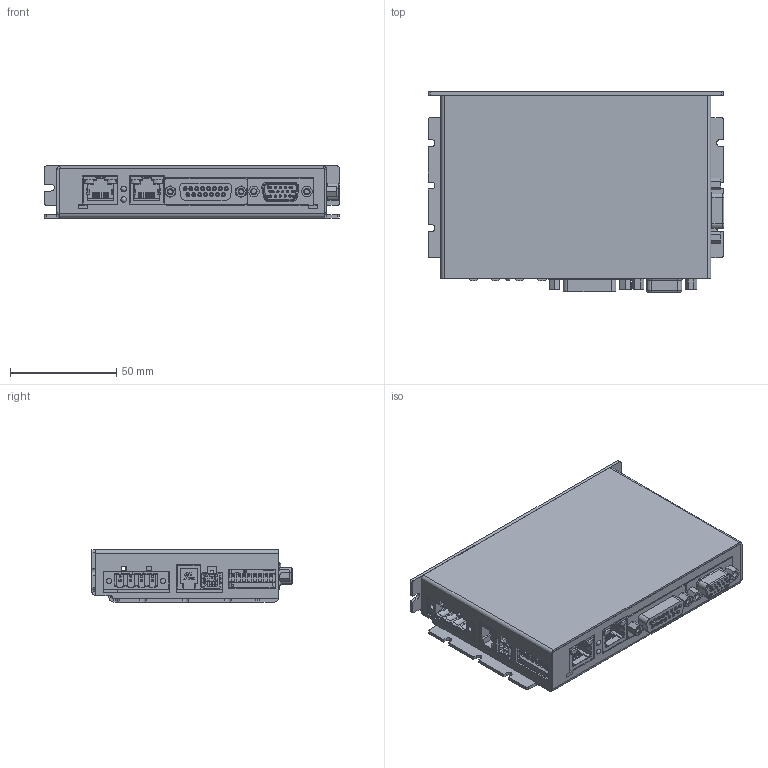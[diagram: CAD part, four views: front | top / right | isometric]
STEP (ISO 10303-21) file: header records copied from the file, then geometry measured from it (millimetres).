
FILE_DESCRIPTION (( 'STEP AP214' ), '1' );
FILE_NAME ('P029.750.0013.10C- iPOS8010.STEP', '2014-03-04T09:20:55', ( 'Jerry' ), ( '' ), 'SwSTEP 2.0', 'SolidWorks 2013', '' );
FILE_SCHEMA (( 'AUTOMOTIVE_DESIGN' ));
Length unit declared in the file: millimetre
Products named in the file (4): P029.750.0011.01C Baseplate Type C 280813_D‚faut; P029.750.0013.10C- iPOS8010; P029 - iPOS8020 15052013; P029.750.0012.01C Cover Type C 270813_D‚faut
Assembly tree (3 placements, depth 2):
  P029.750.0013.10C- iPOS8010
    P029.750.0011.01C Baseplate Type C 280813_D‚faut
    P029.750.0012.01C Cover Type C 270813_D‚faut
    P029 - iPOS8020 15052013
Bounding box: 139.16 x 94.18 x 24.5 mm (x, y, z)
Volume: 37008.1 mm3; surface area: 105823.3 mm2
Topology: 2 solids, 118 shells, 2513 faces, 8271 edges, 5755 vertices
Faces by surface type: plane 1907, cylinder 473, bspline 62, cone 47, torus 16, sphere 8
Full cylindrical faces by diameter (mm): 0.46 x4, 0.65 x30, 0.7 x104, 0.862 x1, 0.882 x1, 0.887 x1, 0.889 x33, 0.89 x1, 0.894 x1, 0.897 x1, 1 x32, 1.028 x1, 1.143 x4, 1.168 x1, 1.219 x1, 1.4 x4, 1.48 x1, 1.499 x2, 2.156 x2, 2.5 x10, 2.54 x2, 2.586 x1, 2.599 x1, 2.6 x5, 2.607 x1, 2.628 x1, 2.845 x2, 2.978 x1, 3 x4, 3.2 x11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
Entity records: 117293 total; most frequent: CARTESIAN_POINT 22464, DIRECTION 13270, ORIENTED_EDGE 12959, EDGE_CURVE 7889, LINE 6118, VECTOR 6118, VERTEX_POINT 5703, AXIS2_PLACEMENT_3D 3576
